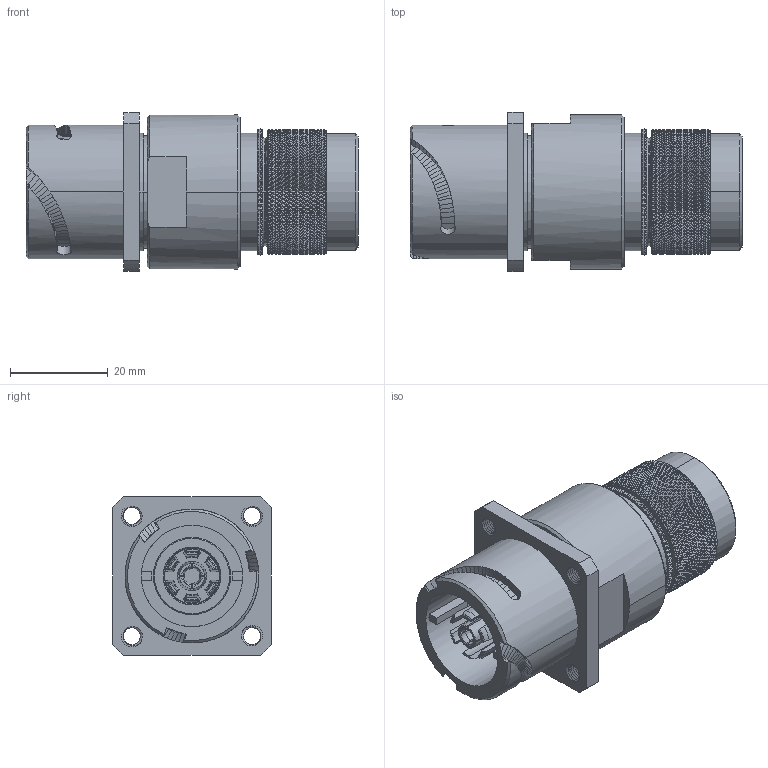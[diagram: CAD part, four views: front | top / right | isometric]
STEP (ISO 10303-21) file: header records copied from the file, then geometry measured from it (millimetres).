
FILE_DESCRIPTION((''),'2;1');
FILE_NAME('GCE3100E16M25S-B-T14_SW0001','2023-06-01T14:09:15',('paultorloting'),('NET AG system integration'),'CREO PARAMETRIC BY PTC INC, 2021404','CREO PARAMETRIC BY PTC INC, 2021404','');
FILE_SCHEMA(('AUTOMOTIVE_DESIGN { 1 0 10303 214 1 1 1 1 }'));
Products named in the file (1): GCE3100E16M25S-B-T14_SW0001
Bounding box: 67.9 x 32.5 x 32.5 mm (x, y, z)
Volume: 35672 mm3; surface area: 13828.3 mm2
Topology: 2 solids, 2 shells, 8984 faces, 15799 edges, 6855 vertices
Faces by surface type: bspline 6440, plane 2406, cone 53, cylinder 45, torus 40
Entity records: 311036 total; most frequent: CARTESIAN_POINT 180115, ORIENTED_EDGE 31598, EDGE_CURVE 15799, B_SPLINE_CURVE_WITH_KNOTS 10877, DIRECTION 10267, EDGE_LOOP 9032, FACE_OUTER_BOUND 8984, ADVANCED_FACE 8984
